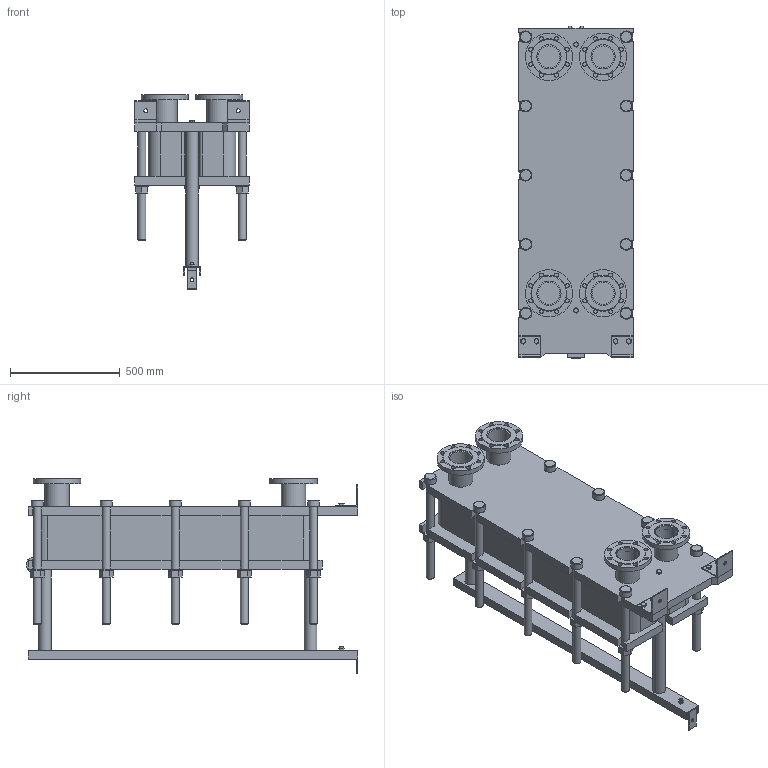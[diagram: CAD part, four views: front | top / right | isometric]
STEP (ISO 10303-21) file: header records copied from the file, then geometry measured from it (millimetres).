
FILE_DESCRIPTION(/* description */ (''),/* implementation_level */ '2;1');
FILE_NAME(/* name */ 'C:\Users\zhuro\Desktop\ENCO\TO\ЭН-04\ЭН-0,5-04-59-1.stp',/* time_stamp */ '2022-06-06T10:49:28+03:00',/* author */ ('zhuro'),/* organization */ (''),/* preprocessor_version */ 'ST-DEVELOPER v18.1',/* originating_system */ 'Autodesk Inventor 2022',/* authorisation */ '');
FILE_SCHEMA (('AUTOMOTIVE_DESIGN { 1 0 10303 214 3 1 1 }'));
Length unit declared in the file: millimetre
Products named in the file (1): ЭН-0,5-04-59-1
Bounding box: 520 x 1510 x 889.5 mm (x, y, z)
Volume: 170724101.2 mm3; surface area: 7453668.1 mm2
Topology: 45 solids, 45 shells, 668 faces, 1611 edges, 1048 vertices
Faces by surface type: plane 457, cylinder 166, cone 39, torus 6
Full cylindrical faces by diameter (mm): 8 x4, 10 x2, 16 x8, 18 x35, 36 x25, 40 x2, 42 x1, 45 x4, 54 x10, 57 x2, 60 x10, 68 x2, 100 x4, 110 x8, 215 x4
Entity records: 23607 total; most frequent: CARTESIAN_POINT 7348, DIRECTION 3371, ORIENTED_EDGE 3142, EDGE_CURVE 1571, AXIS2_PLACEMENT_3D 1199, VERTEX_POINT 1044, LINE 973, VECTOR 973
